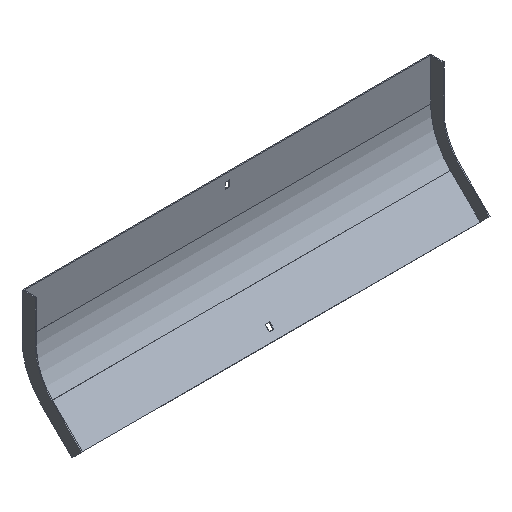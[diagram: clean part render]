
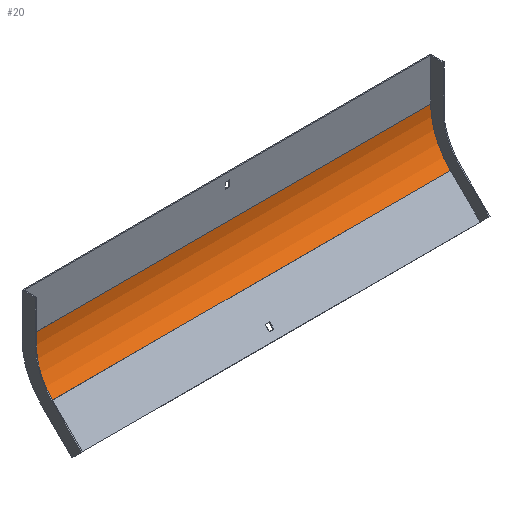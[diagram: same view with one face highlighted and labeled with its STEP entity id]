
A CAD part, isometric view. The second image highlights one B-rep face of the part: STEP entity #20.
In plain terms, the highlighted cylindrical face has radius 100 mm (diameter 200 mm), a partial arc.
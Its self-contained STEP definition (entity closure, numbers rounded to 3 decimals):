
#20 = ADVANCED_FACE ( 'NONE', ( #390 ), #671, .F. ) ;
#22 = LINE ( 'NONE', #31, #134 ) ;
#31 = CARTESIAN_POINT ( 'NONE',  ( 303.5, -1.5, -62.73 ) ) ;
#36 = EDGE_CURVE ( 'NONE', #638, #567, #22, .T. ) ;
#65 = CARTESIAN_POINT ( 'NONE',  ( 303.5, -101.5, -62.73 ) ) ;
#75 = ORIENTED_EDGE ( 'NONE', *, *, #735, .T. ) ;
#80 = CARTESIAN_POINT ( 'NONE',  ( -302., -1.5, -62.73 ) ) ;
#134 = VECTOR ( 'NONE', #561, 1000. ) ;
#146 = DIRECTION ( 'NONE',  ( 1., 0., 0. ) ) ;
#153 = CIRCLE ( 'NONE', #830, 100. ) ;
#169 = AXIS2_PLACEMENT_3D ( 'NONE', #65, #539, #861 ) ;
#170 = LINE ( 'NONE', #779, #566 ) ;
#275 = DIRECTION ( 'NONE',  ( 0., 0., 1. ) ) ;
#342 = CARTESIAN_POINT ( 'NONE',  ( 302., -1.5, -62.73 ) ) ;
#349 = CIRCLE ( 'NONE', #381, 100. ) ;
#360 = CARTESIAN_POINT ( 'NONE',  ( 302., -101.5, -62.73 ) ) ;
#377 = VERTEX_POINT ( 'NONE', #449 ) ;
#381 = AXIS2_PLACEMENT_3D ( 'NONE', #756, #146, #275 ) ;
#384 = ORIENTED_EDGE ( 'NONE', *, *, #695, .F. ) ;
#390 = FACE_OUTER_BOUND ( 'NONE', #776, .T. ) ;
#396 = CARTESIAN_POINT ( 'NONE',  ( -302., -30.789, -133.441 ) ) ;
#449 = CARTESIAN_POINT ( 'NONE',  ( 302., -30.789, -133.441 ) ) ;
#513 = ORIENTED_EDGE ( 'NONE', *, *, #592, .F. ) ;
#529 = DIRECTION ( 'NONE',  ( -1., 0., 0. ) ) ;
#539 = DIRECTION ( 'NONE',  ( -1., 0., 0. ) ) ;
#540 = VERTEX_POINT ( 'NONE', #396 ) ;
#561 = DIRECTION ( 'NONE',  ( -1., 0., 0. ) ) ;
#566 = VECTOR ( 'NONE', #529, 1000. ) ;
#567 = VERTEX_POINT ( 'NONE', #80 ) ;
#580 = ORIENTED_EDGE ( 'NONE', *, *, #36, .T. ) ;
#592 = EDGE_CURVE ( 'NONE', #540, #567, #349, .T. ) ;
#638 = VERTEX_POINT ( 'NONE', #342 ) ;
#647 = DIRECTION ( 'NONE',  ( 0., 0., 1. ) ) ;
#671 = CYLINDRICAL_SURFACE ( 'NONE', #169, 100. ) ;
#695 = EDGE_CURVE ( 'NONE', #377, #540, #170, .T. ) ;
#735 = EDGE_CURVE ( 'NONE', #377, #638, #153, .T. ) ;
#756 = CARTESIAN_POINT ( 'NONE',  ( -302., -101.5, -62.73 ) ) ;
#776 = EDGE_LOOP ( 'NONE', ( #513, #384, #75, #580 ) ) ;
#779 = CARTESIAN_POINT ( 'NONE',  ( 303.5, -30.789, -133.441 ) ) ;
#830 = AXIS2_PLACEMENT_3D ( 'NONE', #360, #848, #647 ) ;
#848 = DIRECTION ( 'NONE',  ( 1., 0., 0. ) ) ;
#861 = DIRECTION ( 'NONE',  ( 0., 0., 1. ) ) ;
